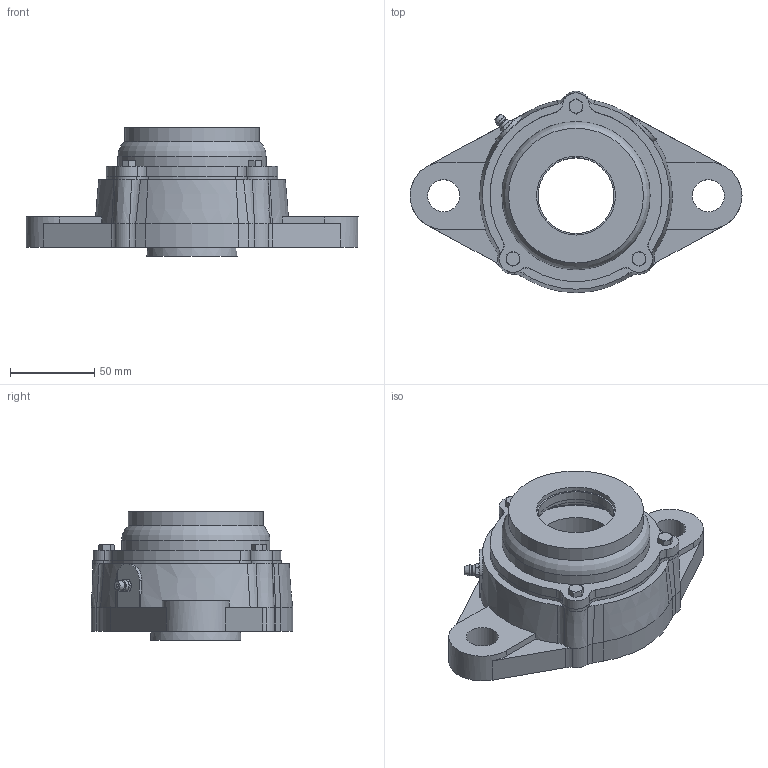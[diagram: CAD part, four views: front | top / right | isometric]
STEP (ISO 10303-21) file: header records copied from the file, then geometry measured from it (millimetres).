
FILE_DESCRIPTION((''),'2;1');
FILE_NAME('\\Ts-tgl068\j-cad-d-base\00.3DCADデータ作成フォルダ\02.フランジ形\CUKFL200\CUKFL210C+H.stp','2014-10-20T16:45:47',('btec_1106_2'),(''),'Autodesk Inventor 2012','Autodesk Inventor 2012','');
FILE_SCHEMA(('AUTOMOTIVE_DESIGN { 1 0 10303 214 1 1 1 1 }'));
Length unit declared in the file: millimetre
Products named in the file (7): CUKFL200C+H; CFL210; GU1; 210C45R; 210C45; M5X0; UK210
Assembly tree (8 placements, depth 3):
  CUKFL200C+H
    CFL210
    GU1
    210C45R
      210C45
      M5X0  x3
    UK210
Bounding box: 197 x 119.5 x 76.5 mm (x, y, z)
Volume: 441952.3 mm3; surface area: 110164.6 mm2
Topology: 7 solids, 7 shells, 327 faces, 833 edges, 536 vertices
Faces by surface type: plane 130, cylinder 104, cone 69, bspline 16, sphere 4, torus 4
Full cylindrical faces by diameter (mm): 4.134 x3, 5 x3, 5.359 x1, 6 x3, 6.35 x1, 19 x2, 45 x2, 46.8 x2, 63 x2, 80 x1, 88 x2, 92 x2, 99 x1
Entity records: 9339 total; most frequent: CARTESIAN_POINT 2376, ORIENTED_EDGE 1428, DIRECTION 1399, EDGE_CURVE 714, AXIS2_PLACEMENT_3D 575, VERTEX_POINT 481, EDGE_LOOP 364, FACE_OUTER_BOUND 293
